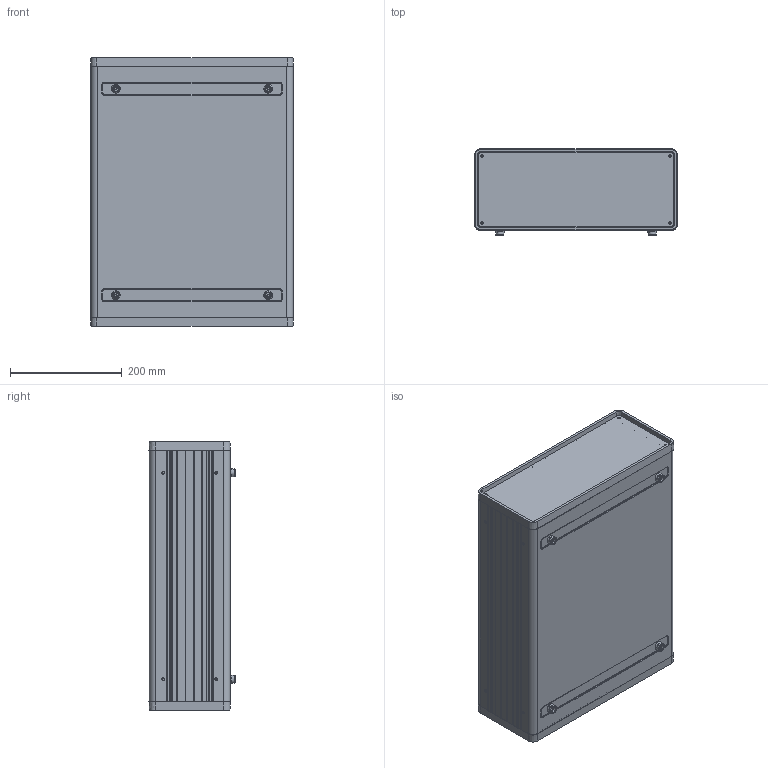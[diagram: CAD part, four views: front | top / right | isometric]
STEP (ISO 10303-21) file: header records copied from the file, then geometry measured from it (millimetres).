
FILE_DESCRIPTION (( 'STEP AP203' ), '1' );
FILE_NAME ('DT-552.STEP', '2018-08-10T14:11:37', ( '' ), ( '' ), 'SwSTEP 2.0', 'SolidWorks 2018', '' );
FILE_SCHEMA (( 'CONFIG_CONTROL_DESIGN' ));
Length unit declared in the file: millimetre
Products named in the file (9): DT-550-P-4_冢_Panel; DT-550-P-1; A-83_pul; DT-552; DT-552-P-1_嘖t_kapak; AP-135; A-83; A-83-0-0-S-0; DT-552-P-1_Alt_kapak
Assembly tree (14 placements, depth 3):
  DT-552
    DT-550-P-1  x2
    AP-135  x2
    DT-552-P-1_嘖t_kapak
    DT-550-P-4_冢_Panel  x2
    DT-552-P-1_Alt_kapak
    A-83-0-0-S-0  x4
      A-83
      A-83_pul
Bounding box: 364.85 x 154.1 x 481.8 mm (x, y, z)
Volume: 1618447.8 mm3; surface area: 1570043.2 mm2
Topology: 20 solids, 20 shells, 1196 faces, 3362 edges, 2228 vertices
Faces by surface type: plane 740, cylinder 340, cone 76, torus 40
Entity records: 22152 total; most frequent: CARTESIAN_POINT 3683, DIRECTION 3673, ORIENTED_EDGE 3634, EDGE_CURVE 1817, LINE 1293, VECTOR 1293, VERTEX_POINT 1200, AXIS2_PLACEMENT_3D 1190
